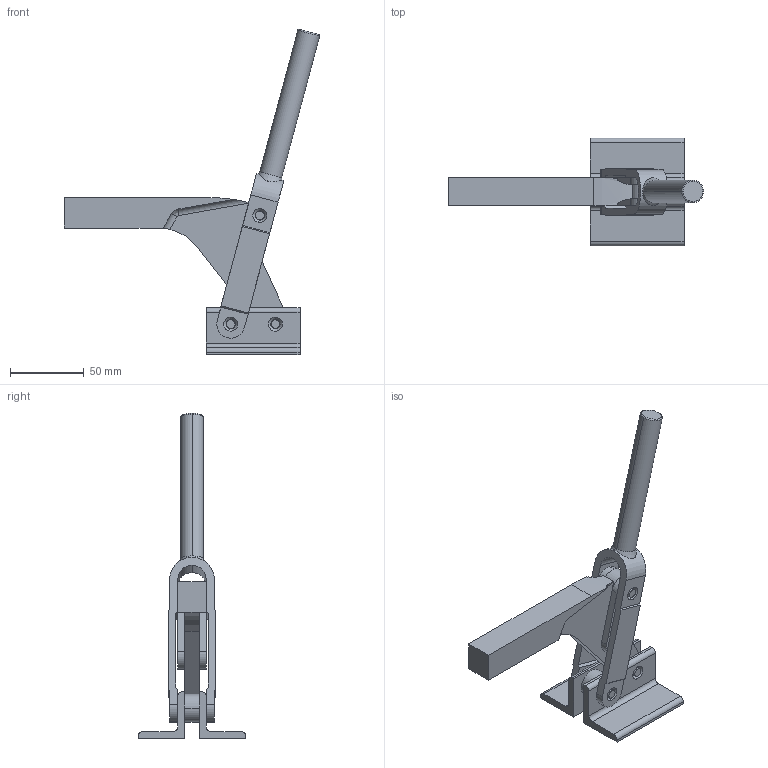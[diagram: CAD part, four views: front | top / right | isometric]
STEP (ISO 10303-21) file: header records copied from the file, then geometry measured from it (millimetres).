
FILE_DESCRIPTION( ( '' ), '1' );
FILE_NAME( 'C:\Documents and Settings\Richard Grenzke\My Documents\Wolverine Company Data\WOLVERINE CD 5_17_05\SOLIDS STEP\hold_down\cq1110a.stp', ' ', ( '' ), ( '' ), 'ACIS Interop R16', 'Kubotek KeyCreator V5.5.1 (0454)', ' ' );
FILE_SCHEMA( ( 'CONFIG_CONTROL_DESIGN' ) );
Length unit declared in the file: inch
Products named in the file (13): 1; 2; 3; 4; 5; 6; 7; 8; 9; 10; 11; 12; 13
Bounding box: 172.79 x 73.03 x 220.26 mm (x, y, z)
Volume: 153298.4 mm3; surface area: 59390.5 mm2
Topology: 12 solids, 12 shells, 174 faces, 439 edges, 289 vertices
Faces by surface type: plane 78, cylinder 74, cone 18, torus 2, bspline 2
Entity records: 5999 total; most frequent: CARTESIAN_POINT 1035, DIRECTION 980, ORIENTED_EDGE 878, EDGE_CURVE 439, AXIS2_PLACEMENT_3D 366, VERTEX_POINT 289, LINE 248, VECTOR 248
